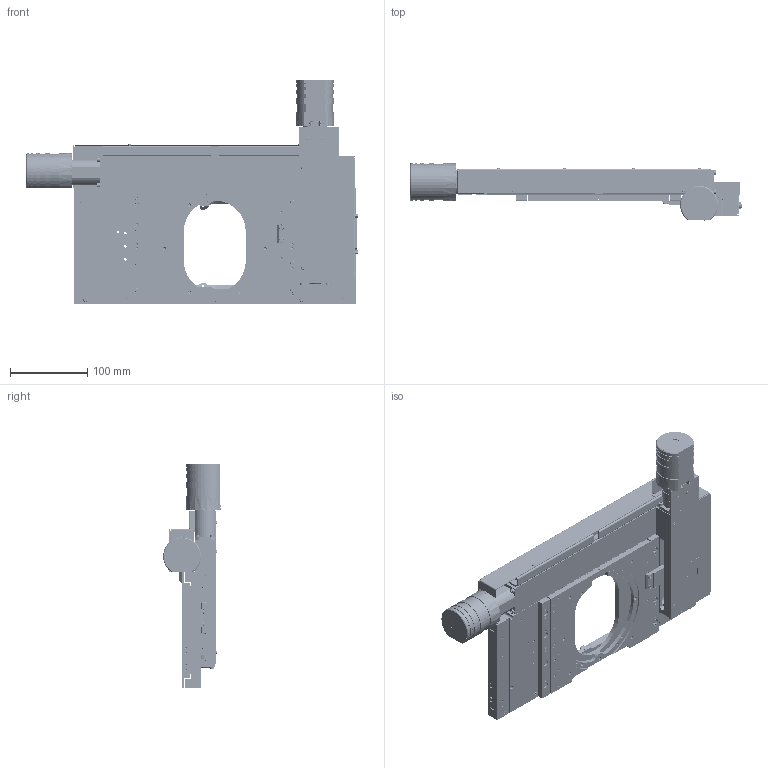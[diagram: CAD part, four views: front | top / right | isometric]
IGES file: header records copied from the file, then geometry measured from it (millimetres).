
Start section: SolidWorks IGES file using analytic representation for surfaces
Global section: file name: C:\1-DATA-FILES-FOR-PROJECTS\2022-PRODUCT-REFERENCE-MODELS\6-SECOND-BATCH-STAGES\H138A\2-H138A-REFERENCE-PARTS\H138A_REFERENCE-IGES.IGS; native system: SolidWorks 2019; preprocessor: SolidWorks 2019; author: jwilliams; date: 220201.101637; units: inch
Bounding box: 428.8 x 74.59 x 290.2 mm (x, y, z)
Surface area: 613565.8 mm2 (no closed solid volume)
Topology: 0 solids, 0 shells, 6653 faces, 86747 edges, 86557 vertices
Faces by surface type: bspline 4339, revolution 2314
